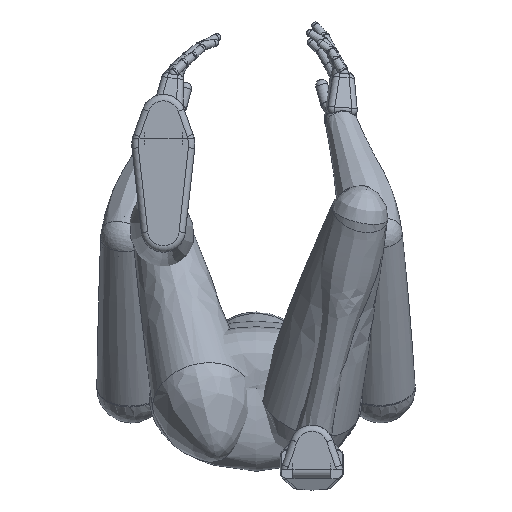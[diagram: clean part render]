
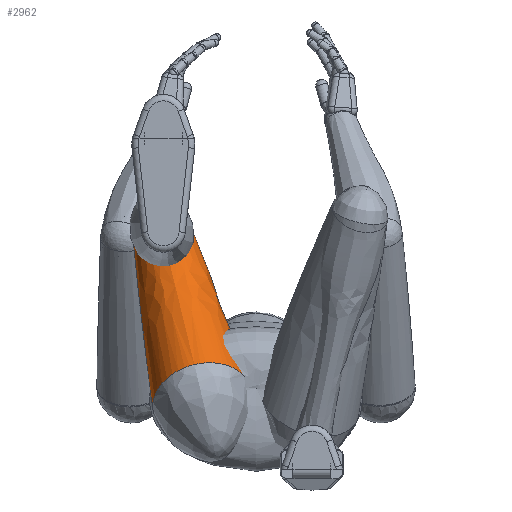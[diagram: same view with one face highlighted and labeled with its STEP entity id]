
A CAD part, front view. The second image highlights one B-rep face of the part: STEP entity #2962.
In plain terms, the highlighted free-form (B-spline) face has degree [3, 3] with [26, 4] control points.
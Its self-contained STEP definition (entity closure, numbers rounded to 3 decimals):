
#474=ELLIPSE('',#3664,55.,45.);
#475=ELLIPSE('',#3665,100.,80.);
#666=B_SPLINE_SURFACE_WITH_KNOTS('',3,3,((#7773,#7774,#7775,#7776),(#7777,
#7778,#7779,#7780),(#7781,#7782,#7783,#7784),(#7785,#7786,#7787,#7788),
(#7789,#7790,#7791,#7792),(#7793,#7794,#7795,#7796),(#7797,#7798,#7799,
#7800),(#7801,#7802,#7803,#7804),(#7805,#7806,#7807,#7808),(#7809,#7810,
#7811,#7812),(#7813,#7814,#7815,#7816),(#7817,#7818,#7819,#7820),(#7821,
#7822,#7823,#7824),(#7825,#7826,#7827,#7828),(#7829,#7830,#7831,#7832),
(#7833,#7834,#7835,#7836),(#7837,#7838,#7839,#7840),(#7841,#7842,#7843,
#7844),(#7845,#7846,#7847,#7848),(#7849,#7850,#7851,#7852),(#7853,#7854,
#7855,#7856),(#7857,#7858,#7859,#7860),(#7861,#7862,#7863,#7864),(#7865,
#7866,#7867,#7868),(#7869,#7870,#7871,#7872),(#7873,#7874,#7875,#7876)),
 .UNSPECIFIED.,.T.,.F.,.F.,(4,1,1,1,1,1,1,1,1,1,1,1,1,1,1,1,1,1,1,1,1,1,
1,4),(4,4),(0.,0.036,0.071,0.107,
0.143,0.19,0.238,0.286,
0.333,0.381,0.429,0.476,
0.524,0.571,0.619,0.667,
0.714,0.786,0.821,0.857,
0.893,0.929,0.964,1.),(0.,1.),
 .UNSPECIFIED.);
#719=B_SPLINE_CURVE_WITH_KNOTS('',3,(#7877,#7878,#7879,#7880),
 .UNSPECIFIED.,.F.,.F.,(4,4),(0.,1.),.UNSPECIFIED.);
#795=FACE_OUTER_BOUND('',#988,.T.);
#988=EDGE_LOOP('',(#2180,#2181,#2182,#2183));
#1405=VERTEX_POINT('',#7655);
#1407=VERTEX_POINT('',#7766);
#1716=EDGE_CURVE('',#1405,#1405,#474,.T.);
#1718=EDGE_CURVE('',#1407,#1407,#475,.T.);
#1720=EDGE_CURVE('',#1407,#1405,#719,.T.);
#2180=ORIENTED_EDGE('',*,*,#1718,.T.);
#2181=ORIENTED_EDGE('',*,*,#1720,.T.);
#2182=ORIENTED_EDGE('',*,*,#1716,.F.);
#2183=ORIENTED_EDGE('',*,*,#1720,.F.);
#2962=ADVANCED_FACE('',(#795),#666,.T.);
#3664=AXIS2_PLACEMENT_3D('',#7656,#4161,#4162);
#3665=AXIS2_PLACEMENT_3D('',#7767,#4163,#4164);
#4161=DIRECTION('center_axis',(0.,-1.,0.));
#4162=DIRECTION('ref_axis',(0.,0.,1.));
#4163=DIRECTION('center_axis',(0.,-1.,0.));
#4164=DIRECTION('ref_axis',(0.,0.,1.));
#7655=CARTESIAN_POINT('',(0.,-360.,-50.));
#7656=CARTESIAN_POINT('Origin',(0.,-360.,5.));
#7766=CARTESIAN_POINT('',(0.,0.,-100.));
#7767=CARTESIAN_POINT('Origin',(0.,0.,0.));
#7773=CARTESIAN_POINT('Ctrl Pts',(0.,0.,-100.));
#7774=CARTESIAN_POINT('Ctrl Pts',(0.,-120.418,
-78.865));
#7775=CARTESIAN_POINT('Ctrl Pts',(0.,-240.418,
-62.198));
#7776=CARTESIAN_POINT('Ctrl Pts',(0.,-360.,-50.));
#7777=CARTESIAN_POINT('Ctrl Pts',(5.984,0.,-100.));
#7778=CARTESIAN_POINT('Ctrl Pts',(5.363,-120.418,-78.865));
#7779=CARTESIAN_POINT('Ctrl Pts',(4.491,-240.418,-62.198));
#7780=CARTESIAN_POINT('Ctrl Pts',(3.366,-360.,-50.));
#7781=CARTESIAN_POINT('Ctrl Pts',(17.952,0.,-98.314));
#7782=CARTESIAN_POINT('Ctrl Pts',(16.089,-120.418,-77.342));
#7783=CARTESIAN_POINT('Ctrl Pts',(13.471,-240.418,-60.928));
#7784=CARTESIAN_POINT('Ctrl Pts',(10.098,-360.,-49.073));
#7785=CARTESIAN_POINT('Ctrl Pts',(35.004,0.,-90.857));
#7786=CARTESIAN_POINT('Ctrl Pts',(31.373,-120.418,-70.603));
#7787=CARTESIAN_POINT('Ctrl Pts',(26.268,-240.418,-55.308));
#7788=CARTESIAN_POINT('Ctrl Pts',(19.69,-360.,-44.971));
#7789=CARTESIAN_POINT('Ctrl Pts',(50.3,0.,-78.842));
#7790=CARTESIAN_POINT('Ctrl Pts',(45.082,-120.418,-59.746));
#7791=CARTESIAN_POINT('Ctrl Pts',(37.746,-240.418,-46.253));
#7792=CARTESIAN_POINT('Ctrl Pts',(28.294,-360.,-38.363));
#7793=CARTESIAN_POINT('Ctrl Pts',(64.496,0.,-61.103));
#7794=CARTESIAN_POINT('Ctrl Pts',(57.805,-120.418,-43.717));
#7795=CARTESIAN_POINT('Ctrl Pts',(48.399,-240.418,-32.885));
#7796=CARTESIAN_POINT('Ctrl Pts',(36.279,-360.,-28.606));
#7797=CARTESIAN_POINT('Ctrl Pts',(75.591,0.,-37.084));
#7798=CARTESIAN_POINT('Ctrl Pts',(67.749,-120.418,-22.013));
#7799=CARTESIAN_POINT('Ctrl Pts',(56.725,-240.418,-14.784));
#7800=CARTESIAN_POINT('Ctrl Pts',(42.52,-360.,-15.396));
#7801=CARTESIAN_POINT('Ctrl Pts',(80.975,0.,-7.584));
#7802=CARTESIAN_POINT('Ctrl Pts',(72.574,-120.418,4.642));
#7803=CARTESIAN_POINT('Ctrl Pts',(60.766,-240.418,7.447));
#7804=CARTESIAN_POINT('Ctrl Pts',(45.548,-360.,0.829));
#7805=CARTESIAN_POINT('Ctrl Pts',(79.167,0.,22.587));
#7806=CARTESIAN_POINT('Ctrl Pts',(70.954,-120.418,31.905));
#7807=CARTESIAN_POINT('Ctrl Pts',(59.409,-240.418,30.184));
#7808=CARTESIAN_POINT('Ctrl Pts',(44.531,-360.,17.423));
#7809=CARTESIAN_POINT('Ctrl Pts',(70.325,0.,50.754));
#7810=CARTESIAN_POINT('Ctrl Pts',(63.029,-120.418,57.357));
#7811=CARTESIAN_POINT('Ctrl Pts',(52.773,-240.418,51.41));
#7812=CARTESIAN_POINT('Ctrl Pts',(39.558,-360.,32.915));
#7813=CARTESIAN_POINT('Ctrl Pts',(55.231,0.,74.406));
#7814=CARTESIAN_POINT('Ctrl Pts',(49.501,-120.418,78.729));
#7815=CARTESIAN_POINT('Ctrl Pts',(41.447,-240.418,69.236));
#7816=CARTESIAN_POINT('Ctrl Pts',(31.067,-360.,45.923));
#7817=CARTESIAN_POINT('Ctrl Pts',(35.233,0.,91.454));
#7818=CARTESIAN_POINT('Ctrl Pts',(31.578,-120.418,94.135));
#7819=CARTESIAN_POINT('Ctrl Pts',(26.44,-240.418,82.083));
#7820=CARTESIAN_POINT('Ctrl Pts',(19.819,-360.,55.3));
#7821=CARTESIAN_POINT('Ctrl Pts',(12.102,0.,100.368));
#7822=CARTESIAN_POINT('Ctrl Pts',(10.846,-120.418,102.189));
#7823=CARTESIAN_POINT('Ctrl Pts',(9.082,-240.418,88.801));
#7824=CARTESIAN_POINT('Ctrl Pts',(6.807,-360.,60.203));
#7825=CARTESIAN_POINT('Ctrl Pts',(-12.103,0.,100.372));
#7826=CARTESIAN_POINT('Ctrl Pts',(-10.848,-120.418,102.193));
#7827=CARTESIAN_POINT('Ctrl Pts',(-9.083,-240.418,88.803));
#7828=CARTESIAN_POINT('Ctrl Pts',(-6.808,-360.,60.205));
#7829=CARTESIAN_POINT('Ctrl Pts',(-35.233,0.,91.453));
#7830=CARTESIAN_POINT('Ctrl Pts',(-31.578,-120.418,94.133));
#7831=CARTESIAN_POINT('Ctrl Pts',(-26.439,-240.418,82.082));
#7832=CARTESIAN_POINT('Ctrl Pts',(-19.819,-360.,55.299));
#7833=CARTESIAN_POINT('Ctrl Pts',(-55.236,0.,74.407));
#7834=CARTESIAN_POINT('Ctrl Pts',(-49.506,-120.418,78.73));
#7835=CARTESIAN_POINT('Ctrl Pts',(-41.451,-240.418,69.236));
#7836=CARTESIAN_POINT('Ctrl Pts',(-31.07,-360.,45.924));
#7837=CARTESIAN_POINT('Ctrl Pts',(-70.322,0.,50.752));
#7838=CARTESIAN_POINT('Ctrl Pts',(-63.027,-120.418,57.356));
#7839=CARTESIAN_POINT('Ctrl Pts',(-52.77,-240.418,51.41));
#7840=CARTESIAN_POINT('Ctrl Pts',(-39.556,-360.,32.914));
#7841=CARTESIAN_POINT('Ctrl Pts',(-80.659,0.,17.892));
#7842=CARTESIAN_POINT('Ctrl Pts',(-72.292,-120.418,27.663));
#7843=CARTESIAN_POINT('Ctrl Pts',(-60.528,-240.418,26.646));
#7844=CARTESIAN_POINT('Ctrl Pts',(-45.371,-360.,14.841));
#7845=CARTESIAN_POINT('Ctrl Pts',(-80.658,0.,-15.335));
#7846=CARTESIAN_POINT('Ctrl Pts',(-72.29,-120.418,-2.361));
#7847=CARTESIAN_POINT('Ctrl Pts',(-60.529,-240.418,1.606));
#7848=CARTESIAN_POINT('Ctrl Pts',(-45.37,-360.,-3.434));
#7849=CARTESIAN_POINT('Ctrl Pts',(-72.677,0.,-43.754));
#7850=CARTESIAN_POINT('Ctrl Pts',(-65.137,-120.418,-28.041));
#7851=CARTESIAN_POINT('Ctrl Pts',(-54.539,-240.418,-19.811));
#7852=CARTESIAN_POINT('Ctrl Pts',(-40.881,-360.,-19.065));
#7853=CARTESIAN_POINT('Ctrl Pts',(-63.074,0.,-62.875));
#7854=CARTESIAN_POINT('Ctrl Pts',(-56.53,-120.418,-45.318));
#7855=CARTESIAN_POINT('Ctrl Pts',(-47.334,-240.418,-34.22));
#7856=CARTESIAN_POINT('Ctrl Pts',(-35.479,-360.,-29.581));
#7857=CARTESIAN_POINT('Ctrl Pts',(-50.296,0.,-78.842));
#7858=CARTESIAN_POINT('Ctrl Pts',(-45.078,-120.418,-59.746));
#7859=CARTESIAN_POINT('Ctrl Pts',(-37.744,-240.418,-46.253));
#7860=CARTESIAN_POINT('Ctrl Pts',(-28.292,-360.,-38.363));
#7861=CARTESIAN_POINT('Ctrl Pts',(-35.003,0.,-90.856));
#7862=CARTESIAN_POINT('Ctrl Pts',(-31.372,-120.418,-70.603));
#7863=CARTESIAN_POINT('Ctrl Pts',(-26.268,-240.418,-55.308));
#7864=CARTESIAN_POINT('Ctrl Pts',(-19.689,-360.,-44.971));
#7865=CARTESIAN_POINT('Ctrl Pts',(-17.951,0.,-98.314));
#7866=CARTESIAN_POINT('Ctrl Pts',(-16.089,-120.418,-77.342));
#7867=CARTESIAN_POINT('Ctrl Pts',(-13.471,-240.418,-60.928));
#7868=CARTESIAN_POINT('Ctrl Pts',(-10.097,-360.,-49.073));
#7869=CARTESIAN_POINT('Ctrl Pts',(-5.984,0.,-100.));
#7870=CARTESIAN_POINT('Ctrl Pts',(-5.363,-120.418,-78.865));
#7871=CARTESIAN_POINT('Ctrl Pts',(-4.491,-240.418,-62.198));
#7872=CARTESIAN_POINT('Ctrl Pts',(-3.366,-360.,-50.));
#7873=CARTESIAN_POINT('Ctrl Pts',(0.,0.,-100.));
#7874=CARTESIAN_POINT('Ctrl Pts',(0.,-120.418,
-78.865));
#7875=CARTESIAN_POINT('Ctrl Pts',(0.,-240.418,
-62.198));
#7876=CARTESIAN_POINT('Ctrl Pts',(0.,-360.,-50.));
#7877=CARTESIAN_POINT('Ctrl Pts',(0.,0.,-100.));
#7878=CARTESIAN_POINT('Ctrl Pts',(0.,-120.418,
-78.865));
#7879=CARTESIAN_POINT('Ctrl Pts',(0.,-240.418,
-62.198));
#7880=CARTESIAN_POINT('Ctrl Pts',(0.,-360.,-50.));
